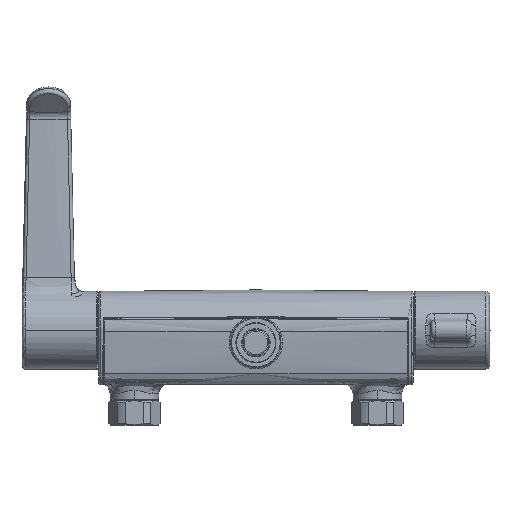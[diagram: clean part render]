
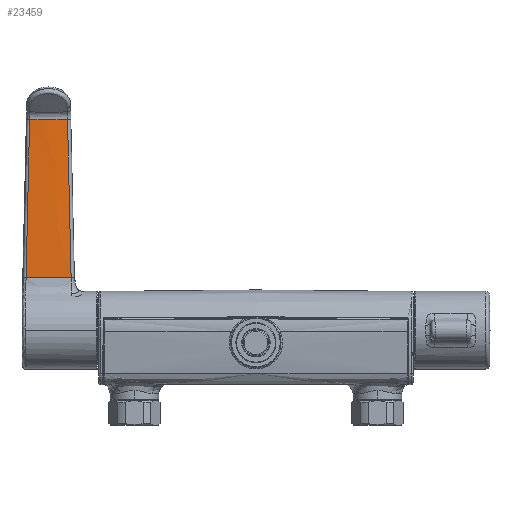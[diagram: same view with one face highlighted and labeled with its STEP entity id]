
A CAD part, front view. The second image highlights one B-rep face of the part: STEP entity #23459.
In plain terms, the highlighted free-form (B-spline) face has degree [3, 3] with [6, 6] control points.
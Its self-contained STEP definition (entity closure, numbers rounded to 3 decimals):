
#517 = B_SPLINE_CURVE_WITH_KNOTS ( 'NONE', 3,
 ( #25246, #1298, #13534, #29962, #1725, #25367, #17845, #20209, #9285, #11644, #20904, #11546, #13944, #2127 ),
 .UNSPECIFIED., .F., .F.,
 ( 4, 2, 2, 2, 2, 2, 4 ),
 ( 0., 0.5, 0.75, 0.875, 0.938, 0.969, 1. ),
 .UNSPECIFIED. ) ;
#1136 = CARTESIAN_POINT ( 'NONE',  ( -141.698, -3.105, 129.893 ) ) ;
#1238 = EDGE_CURVE ( 'NONE', #9152, #8358, #8750, .T. ) ;
#1298 = CARTESIAN_POINT ( 'NONE',  ( -114.457, -5.793, 48.82 ) ) ;
#1320 = ORIENTED_EDGE ( 'NONE', *, *, #1238, .F. ) ;
#1464 = CARTESIAN_POINT ( 'NONE',  ( -140.185, -6.104, 43.42 ) ) ;
#1725 = CARTESIAN_POINT ( 'NONE',  ( -115.558, -4.267, 97.467 ) ) ;
#2084 = EDGE_CURVE ( 'NONE', #6927, #14188, #517, .T. ) ;
#2127 = CARTESIAN_POINT ( 'NONE',  ( -116.293, -3.249, 129.898 ) ) ;
#2661 = EDGE_CURVE ( 'NONE', #8358, #14188, #24393, .T. ) ;
#2677 = CARTESIAN_POINT ( 'NONE',  ( -140.064, -3.758, 113.682 ) ) ;
#2896 = CARTESIAN_POINT ( 'NONE',  ( -139.788, -3.376, 125.844 ) ) ;
#3421 = CARTESIAN_POINT ( 'NONE',  ( -123.175, -4.729, 97.481 ) ) ;
#3542 = CARTESIAN_POINT ( 'NONE',  ( -122.929, -5.801, 65.052 ) ) ;
#3749 = CARTESIAN_POINT ( 'NONE',  ( -116.185, -5.414, 65.04 ) ) ;
#3852 = CARTESIAN_POINT ( 'NONE',  ( -139.696, -3.249, 129.898 ) ) ;
#3855 = CARTESIAN_POINT ( 'NONE',  ( -139.804, -5.414, 65.04 ) ) ;
#4635 = ORIENTED_EDGE ( 'NONE', *, *, #2661, .F. ) ;
#5036 = FACE_OUTER_BOUND ( 'NONE', #13166, .T. ) ;
#5818 = CARTESIAN_POINT ( 'NONE',  ( -117.139, -3.686, 119.09 ) ) ;
#6022 = CARTESIAN_POINT ( 'NONE',  ( -116.757, -4.377, 97.47 ) ) ;
#6249 = CARTESIAN_POINT ( 'NONE',  ( -139.742, -3.313, 127.871 ) ) ;
#6251 = CARTESIAN_POINT ( 'NONE',  ( -142.433, -4.114, 97.462 ) ) ;
#6322 = DIRECTION ( 'NONE',  ( 0., 0.031, 1. ) ) ;
#6927 = VERTEX_POINT ( 'NONE', #19306 ) ;
#7454 = CARTESIAN_POINT ( 'NONE',  ( -140.156, -3.885, 109.628 ) ) ;
#7508 = B_SPLINE_CURVE_WITH_KNOTS ( 'NONE', 3,
 ( #11080, #22464, #13441, #17754, #20319, #20218 ),
 .UNSPECIFIED., .F., .F.,
 ( 4, 1, 1, 4 ),
 ( 0., 0.309, 0.691, 1. ),
 .UNSPECIFIED. ) ;
#7670 = CARTESIAN_POINT ( 'NONE',  ( -139.88, -3.504, 121.789 ) ) ;
#8193 = CARTESIAN_POINT ( 'NONE',  ( -138.85, -3.686, 119.09 ) ) ;
#8314 = AXIS2_PLACEMENT_3D ( 'NONE', #25077, #6322, #8831 ) ;
#8358 = VERTEX_POINT ( 'NONE', #28101 ) ;
#8534 = CARTESIAN_POINT ( 'NONE',  ( -133.06, -5.801, 65.052 ) ) ;
#8750 = B_SPLINE_CURVE_WITH_KNOTS ( 'NONE', 3,
 ( #26194, #21667, #21853, #14485, #16854, #7454, #2677, #28744, #7670, #17053, #2896, #6249, #13285, #3852 ),
 .UNSPECIFIED., .F., .F.,
 ( 4, 2, 2, 2, 2, 2, 4 ),
 ( 0., 0.5, 0.75, 0.875, 0.938, 0.969, 1. ),
 .UNSPECIFIED. ) ;
#8831 = DIRECTION ( 'NONE',  ( -0.066, -0.997, 0.031 ) ) ;
#9152 = VERTEX_POINT ( 'NONE', #26022 ) ;
#9285 = CARTESIAN_POINT ( 'NONE',  ( -116.109, -3.503, 121.79 ) ) ;
#10595 = CARTESIAN_POINT ( 'NONE',  ( -117.33, -3.341, 129.9 ) ) ;
#10798 = CARTESIAN_POINT ( 'NONE',  ( -132.814, -4.728, 97.481 ) ) ;
#11080 = CARTESIAN_POINT ( 'NONE',  ( -141.898, -6.301, 32.605 ) ) ;
#11546 = CARTESIAN_POINT ( 'NONE',  ( -116.247, -3.313, 127.871 ) ) ;
#11644 = CARTESIAN_POINT ( 'NONE',  ( -116.178, -3.408, 124.83 ) ) ;
#12954 = CARTESIAN_POINT ( 'NONE',  ( -140.375, -6.45, 32.609 ) ) ;
#13060 = CARTESIAN_POINT ( 'NONE',  ( -123.339, -4.013, 119.101 ) ) ;
#13166 = EDGE_LOOP ( 'NONE', ( #26047, #4635, #1320, #20544 ) ) ;
#13179 = CARTESIAN_POINT ( 'NONE',  ( -114.046, -3.441, 119.083 ) ) ;
#13285 = CARTESIAN_POINT ( 'NONE',  ( -139.719, -3.281, 128.884 ) ) ;
#13287 = CARTESIAN_POINT ( 'NONE',  ( -115.614, -6.45, 32.609 ) ) ;
#13341 = EDGE_CURVE ( 'NONE', #9152, #6927, #7508, .T. ) ;
#13441 = CARTESIAN_POINT ( 'NONE',  ( -132.636, -6.874, 32.623 ) ) ;
#13534 = CARTESIAN_POINT ( 'NONE',  ( -114.824, -5.285, 65.036 ) ) ;
#13944 = CARTESIAN_POINT ( 'NONE',  ( -116.27, -3.281, 128.884 ) ) ;
#14188 = VERTEX_POINT ( 'NONE', #17370 ) ;
#14485 = CARTESIAN_POINT ( 'NONE',  ( -140.615, -4.521, 89.359 ) ) ;
#15326 = CARTESIAN_POINT ( 'NONE',  ( -132.568, -3.656, 129.91 ) ) ;
#15650 = CARTESIAN_POINT ( 'NONE',  ( -112.089, -6.132, 32.6 ) ) ;
#16854 = CARTESIAN_POINT ( 'NONE',  ( -140.431, -4.267, 97.467 ) ) ;
#17053 = CARTESIAN_POINT ( 'NONE',  ( -139.811, -3.408, 124.831 ) ) ;
#17370 = CARTESIAN_POINT ( 'NONE',  ( -116.293, -3.249, 129.898 ) ) ;
#17602 = CARTESIAN_POINT ( 'NONE',  ( -122.765, -6.517, 43.432 ) ) ;
#17754 = CARTESIAN_POINT ( 'NONE',  ( -123.354, -6.874, 32.623 ) ) ;
#17845 = CARTESIAN_POINT ( 'NONE',  ( -115.925, -3.758, 113.682 ) ) ;
#17912 = CARTESIAN_POINT ( 'NONE',  ( -133.306, -6.874, 32.623 ) ) ;
#18031 = CARTESIAN_POINT ( 'NONE',  ( -112.822, -5.123, 65.031 ) ) ;
#19306 = CARTESIAN_POINT ( 'NONE',  ( -114.091, -6.301, 32.605 ) ) ;
#19948 = CARTESIAN_POINT ( 'NONE',  ( -139.232, -4.377, 97.47 ) ) ;
#20167 = CARTESIAN_POINT ( 'NONE',  ( -112.333, -5.796, 43.41 ) ) ;
#20209 = CARTESIAN_POINT ( 'NONE',  ( -116.063, -3.567, 119.763 ) ) ;
#20218 = CARTESIAN_POINT ( 'NONE',  ( -114.091, -6.301, 32.605 ) ) ;
#20319 = CARTESIAN_POINT ( 'NONE',  ( -116.952, -6.526, 32.612 ) ) ;
#20365 = CARTESIAN_POINT ( 'NONE',  ( -143.167, -5.123, 65.031 ) ) ;
#20544 = ORIENTED_EDGE ( 'NONE', *, *, #13341, .T. ) ;
#20904 = CARTESIAN_POINT ( 'NONE',  ( -116.201, -3.376, 125.844 ) ) ;
#21667 = CARTESIAN_POINT ( 'NONE',  ( -141.532, -5.793, 48.82 ) ) ;
#21853 = CARTESIAN_POINT ( 'NONE',  ( -141.165, -5.285, 65.036 ) ) ;
#22295 = CARTESIAN_POINT ( 'NONE',  ( -132.65, -4.013, 119.101 ) ) ;
#22411 = CARTESIAN_POINT ( 'NONE',  ( -113.556, -4.114, 97.462 ) ) ;
#22464 = CARTESIAN_POINT ( 'NONE',  ( -139.037, -6.526, 32.612 ) ) ;
#23459 = ADVANCED_FACE ( 'NONE', ( #5036 ), #30588, .T. ) ;
#24393 = CIRCLE ( 'NONE', #8314, 176.997 ) ;
#24679 = CARTESIAN_POINT ( 'NONE',  ( -141.943, -3.441, 119.083 ) ) ;
#24782 = CARTESIAN_POINT ( 'NONE',  ( -115.804, -6.104, 43.42 ) ) ;
#24883 = CARTESIAN_POINT ( 'NONE',  ( -143.9, -6.132, 32.6 ) ) ;
#25077 = CARTESIAN_POINT ( 'NONE',  ( -127.994, 173.275, 124.405 ) ) ;
#25108 = CARTESIAN_POINT ( 'NONE',  ( -122.684, -6.874, 32.623 ) ) ;
#25246 = CARTESIAN_POINT ( 'NONE',  ( -114.091, -6.301, 32.605 ) ) ;
#25367 = CARTESIAN_POINT ( 'NONE',  ( -115.833, -3.885, 109.628 ) ) ;
#26022 = CARTESIAN_POINT ( 'NONE',  ( -141.898, -6.301, 32.605 ) ) ;
#26047 = ORIENTED_EDGE ( 'NONE', *, *, #2084, .T. ) ;
#26194 = CARTESIAN_POINT ( 'NONE',  ( -141.898, -6.301, 32.605 ) ) ;
#27137 = CARTESIAN_POINT ( 'NONE',  ( -143.656, -5.796, 43.41 ) ) ;
#27451 = CARTESIAN_POINT ( 'NONE',  ( -133.224, -6.517, 43.432 ) ) ;
#28101 = CARTESIAN_POINT ( 'NONE',  ( -139.696, -3.249, 129.898 ) ) ;
#28744 = CARTESIAN_POINT ( 'NONE',  ( -139.926, -3.567, 119.763 ) ) ;
#29406 = CARTESIAN_POINT ( 'NONE',  ( -123.421, -3.656, 129.91 ) ) ;
#29504 = CARTESIAN_POINT ( 'NONE',  ( -138.659, -3.341, 129.9 ) ) ;
#29605 = CARTESIAN_POINT ( 'NONE',  ( -114.291, -3.105, 129.893 ) ) ;
#29962 = CARTESIAN_POINT ( 'NONE',  ( -115.374, -4.521, 89.359 ) ) ;
#30588 = B_SPLINE_SURFACE_WITH_KNOTS ( 'NONE', 3, 3, ( 
 ( #15650, #13287, #25108, #17912, #12954, #24883 ),
 ( #20167, #24782, #17602, #27451, #1464, #27137 ),
 ( #18031, #3749, #3542, #8534, #3855, #20365 ),
 ( #22411, #6022, #3421, #10798, #19948, #6251 ),
 ( #13179, #5818, #13060, #22295, #8193, #24679 ),
 ( #29605, #10595, #29406, #15326, #29504, #1136 ) ),
 .UNSPECIFIED., .F., .F., .F.,
 ( 4, 1, 1, 4 ),
 ( 4, 1, 1, 4 ),
 ( 0., 0.333, 0.667, 1. ),
 ( 0., 0.333, 0.667, 1. ),
 .UNSPECIFIED. ) ;
